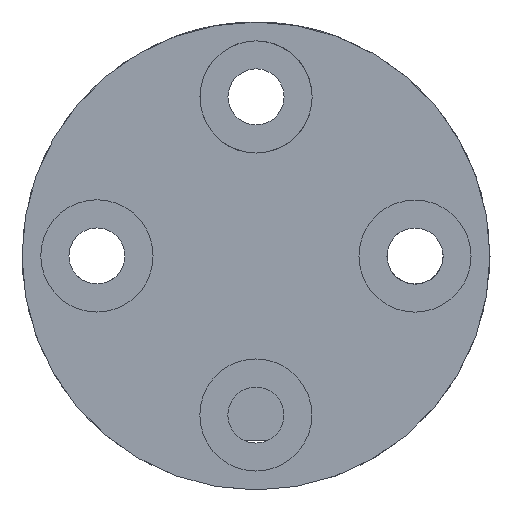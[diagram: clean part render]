
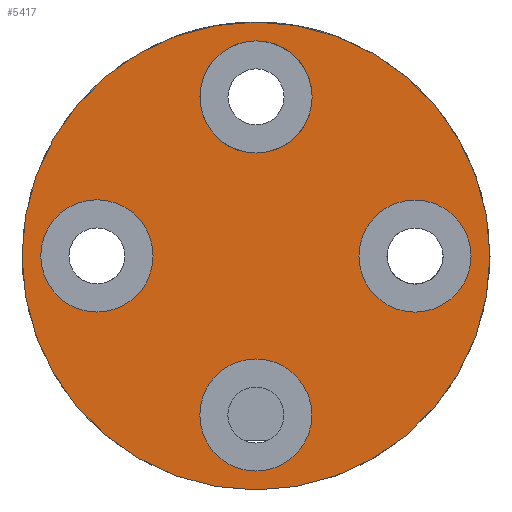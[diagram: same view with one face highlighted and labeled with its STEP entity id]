
A CAD part, front view. The second image highlights one B-rep face of the part: STEP entity #5417.
In plain terms, the highlighted planar face has unit normal (0, -1, 0).
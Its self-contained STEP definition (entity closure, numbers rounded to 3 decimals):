
#683 = DIRECTION ( 'NONE',  ( 0., 0., -1. ) ) ;
#702 = CARTESIAN_POINT ( 'NONE',  ( 0., 0., 12.505 ) ) ;
#705 = DIRECTION ( 'NONE',  ( 0., 0., 1. ) ) ;
#719 = CARTESIAN_POINT ( 'NONE',  ( 0., 0., 0. ) ) ;
#731 = CARTESIAN_POINT ( 'NONE',  ( 0., 0., 5.502 ) ) ;
#824 = CARTESIAN_POINT ( 'NONE',  ( 0., 0., -5.504 ) ) ;
#863 = DIRECTION ( 'NONE',  ( 0., -1., 0. ) ) ;
#892 = DIRECTION ( 'NONE',  ( 0., 0., -1. ) ) ;
#905 = CARTESIAN_POINT ( 'NONE',  ( 0., 0., -11.495 ) ) ;
#907 = CARTESIAN_POINT ( 'NONE',  ( 0., 0., 8.499 ) ) ;
#977 = DIRECTION ( 'NONE',  ( 0., -1., 0. ) ) ;
#1007 = CARTESIAN_POINT ( 'NONE',  ( -8.499, 0., 0. ) ) ;
#1044 = CARTESIAN_POINT ( 'NONE',  ( -8.499, 0., 3.001 ) ) ;
#1084 = DIRECTION ( 'NONE',  ( 0., 0., -1. ) ) ;
#1131 = CARTESIAN_POINT ( 'NONE',  ( 8.499, 0., 0. ) ) ;
#1163 = CARTESIAN_POINT ( 'NONE',  ( 8.499, 0., 2.995 ) ) ;
#1199 = DIRECTION ( 'NONE',  ( 0., 0., -1. ) ) ;
#1292 = CARTESIAN_POINT ( 'NONE',  ( 8.499, 0., 0. ) ) ;
#1444 = CARTESIAN_POINT ( 'NONE',  ( 0., 0., -12.505 ) ) ;
#1474 = CARTESIAN_POINT ( 'NONE',  ( 8.499, 0., -2.995 ) ) ;
#1486 = DIRECTION ( 'NONE',  ( 0., -1., 0. ) ) ;
#1600 = CARTESIAN_POINT ( 'NONE',  ( -8.499, 0., -3.001 ) ) ;
#1634 = DIRECTION ( 'NONE',  ( 0., 1., 0. ) ) ;
#1653 = CARTESIAN_POINT ( 'NONE',  ( 0., 0., 11.496 ) ) ;
#1670 = CARTESIAN_POINT ( 'NONE',  ( 0., 0., -8.499 ) ) ;
#1703 = DIRECTION ( 'NONE',  ( 0., -1., 0. ) ) ;
#1718 = DIRECTION ( 'NONE',  ( 0., -1., 0. ) ) ;
#1760 = DIRECTION ( 'NONE',  ( 0., 0., -1. ) ) ;
#2379 = EDGE_CURVE ( 'NONE', #2905, #2914, #4334, .T. ) ;
#2380 = EDGE_CURVE ( 'NONE', #2932, #2883, #4356, .T. ) ;
#2397 = EDGE_CURVE ( 'NONE', #2630, #2608, #4410, .T. ) ;
#2407 = EDGE_CURVE ( 'NONE', #2893, #2872, #4370, .T. ) ;
#2432 = EDGE_CURVE ( 'NONE', #2883, #2932, #4400, .T. ) ;
#2434 = EDGE_CURVE ( 'NONE', #2608, #2630, #6532, .T. ) ;
#2457 = EDGE_CURVE ( 'NONE', #2914, #2905, #5556, .T. ) ;
#2465 = EDGE_CURVE ( 'NONE', #2624, #2903, #4636, .T. ) ;
#2608 = VERTEX_POINT ( 'NONE', #1444 ) ;
#2624 = VERTEX_POINT ( 'NONE', #1474 ) ;
#2630 = VERTEX_POINT ( 'NONE', #702 ) ;
#2872 = VERTEX_POINT ( 'NONE', #1044 ) ;
#2883 = VERTEX_POINT ( 'NONE', #824 ) ;
#2893 = VERTEX_POINT ( 'NONE', #1600 ) ;
#2903 = VERTEX_POINT ( 'NONE', #1163 ) ;
#2905 = VERTEX_POINT ( 'NONE', #731 ) ;
#2914 = VERTEX_POINT ( 'NONE', #1653 ) ;
#2932 = VERTEX_POINT ( 'NONE', #905 ) ;
#3081 = CARTESIAN_POINT ( 'NONE',  ( 0., 0., 8.499 ) ) ;
#3082 = DIRECTION ( 'NONE',  ( 0., -1., 0. ) ) ;
#3083 = DIRECTION ( 'NONE',  ( 0., 0., -1. ) ) ;
#3084 = CARTESIAN_POINT ( 'NONE',  ( 0., 0., -8.499 ) ) ;
#3085 = DIRECTION ( 'NONE',  ( 0., -1., 0. ) ) ;
#3086 = DIRECTION ( 'NONE',  ( 0., 0., -1. ) ) ;
#3149 = CARTESIAN_POINT ( 'NONE',  ( 0., 0., 0. ) ) ;
#3150 = DIRECTION ( 'NONE',  ( 0., 1., 0. ) ) ;
#3151 = DIRECTION ( 'NONE',  ( 0., 0., 1. ) ) ;
#3204 = CARTESIAN_POINT ( 'NONE',  ( -8.499, 0., 0. ) ) ;
#3214 = DIRECTION ( 'NONE',  ( 0., -1., 0. ) ) ;
#3215 = DIRECTION ( 'NONE',  ( 0., 0., -1. ) ) ;
#3389 = EDGE_CURVE ( 'NONE', #2903, #2624, #4994, .T. ) ;
#3411 = EDGE_CURVE ( 'NONE', #2872, #2893, #5038, .T. ) ;
#3489 = AXIS2_PLACEMENT_3D ( 'NONE', #719, #1634, #705 ) ;
#3494 = AXIS2_PLACEMENT_3D ( 'NONE', #3081, #3082, #3083 ) ;
#3512 = AXIS2_PLACEMENT_3D ( 'NONE', #1670, #863, #1199 ) ;
#3519 = AXIS2_PLACEMENT_3D ( 'NONE', #3084, #3085, #3086 ) ;
#3526 = AXIS2_PLACEMENT_3D ( 'NONE', #3149, #3150, #3151 ) ;
#3527 = AXIS2_PLACEMENT_3D ( 'NONE', #3204, #3214, #3215 ) ;
#3747 = EDGE_LOOP ( 'NONE', ( #6040, #6028 ) ) ;
#3782 = EDGE_LOOP ( 'NONE', ( #6085, #6134 ) ) ;
#3796 = EDGE_LOOP ( 'NONE', ( #6088, #6090 ) ) ;
#3822 = EDGE_LOOP ( 'NONE', ( #6087, #6086 ) ) ;
#4334 = CIRCLE ( 'NONE', #3494, 2.997 ) ;
#4356 = CIRCLE ( 'NONE', #3519, 2.995 ) ;
#4370 = CIRCLE ( 'NONE', #3527, 3.001 ) ;
#4400 = CIRCLE ( 'NONE', #3512, 2.995 ) ;
#4410 = CIRCLE ( 'NONE', #3526, 12.505 ) ;
#4506 = AXIS2_PLACEMENT_3D ( 'NONE', #4798, #4745, #4911 ) ;
#4636 = CIRCLE ( 'NONE', #5208, 2.995 ) ;
#4745 = DIRECTION ( 'NONE',  ( 0., 1., 0. ) ) ;
#4798 = CARTESIAN_POINT ( 'NONE',  ( 0., 0., 0. ) ) ;
#4808 = PLANE ( 'NONE',  #4506 ) ;
#4911 = DIRECTION ( 'NONE',  ( 0., 0., 1. ) ) ;
#4994 = CIRCLE ( 'NONE', #5205, 2.995 ) ;
#5038 = CIRCLE ( 'NONE', #5201, 3.001 ) ;
#5201 = AXIS2_PLACEMENT_3D ( 'NONE', #1007, #1703, #1760 ) ;
#5202 = AXIS2_PLACEMENT_3D ( 'NONE', #907, #1718, #1084 ) ;
#5205 = AXIS2_PLACEMENT_3D ( 'NONE', #1131, #1486, #892 ) ;
#5208 = AXIS2_PLACEMENT_3D ( 'NONE', #1292, #977, #683 ) ;
#5417 = ADVANCED_FACE ( 'NONE', ( #5850, #5869, #5896, #5857, #5852 ), #4808, .F. ) ;
#5556 = CIRCLE ( 'NONE', #5202, 2.997 ) ;
#5697 = EDGE_LOOP ( 'NONE', ( #6089, #6084 ) ) ;
#5850 = FACE_BOUND ( 'NONE', #5697, .T. ) ;
#5852 = FACE_OUTER_BOUND ( 'NONE', #3747, .T. ) ;
#5857 = FACE_BOUND ( 'NONE', #3782, .T. ) ;
#5869 = FACE_BOUND ( 'NONE', #3796, .T. ) ;
#5896 = FACE_BOUND ( 'NONE', #3822, .T. ) ;
#6028 = ORIENTED_EDGE ( 'NONE', *, *, #2397, .F. ) ;
#6040 = ORIENTED_EDGE ( 'NONE', *, *, #2434, .F. ) ;
#6084 = ORIENTED_EDGE ( 'NONE', *, *, #2432, .F. ) ;
#6085 = ORIENTED_EDGE ( 'NONE', *, *, #2379, .F. ) ;
#6086 = ORIENTED_EDGE ( 'NONE', *, *, #3411, .F. ) ;
#6087 = ORIENTED_EDGE ( 'NONE', *, *, #2407, .F. ) ;
#6088 = ORIENTED_EDGE ( 'NONE', *, *, #2465, .F. ) ;
#6089 = ORIENTED_EDGE ( 'NONE', *, *, #2380, .F. ) ;
#6090 = ORIENTED_EDGE ( 'NONE', *, *, #3389, .F. ) ;
#6134 = ORIENTED_EDGE ( 'NONE', *, *, #2457, .F. ) ;
#6532 = CIRCLE ( 'NONE', #3489, 12.505 ) ;
